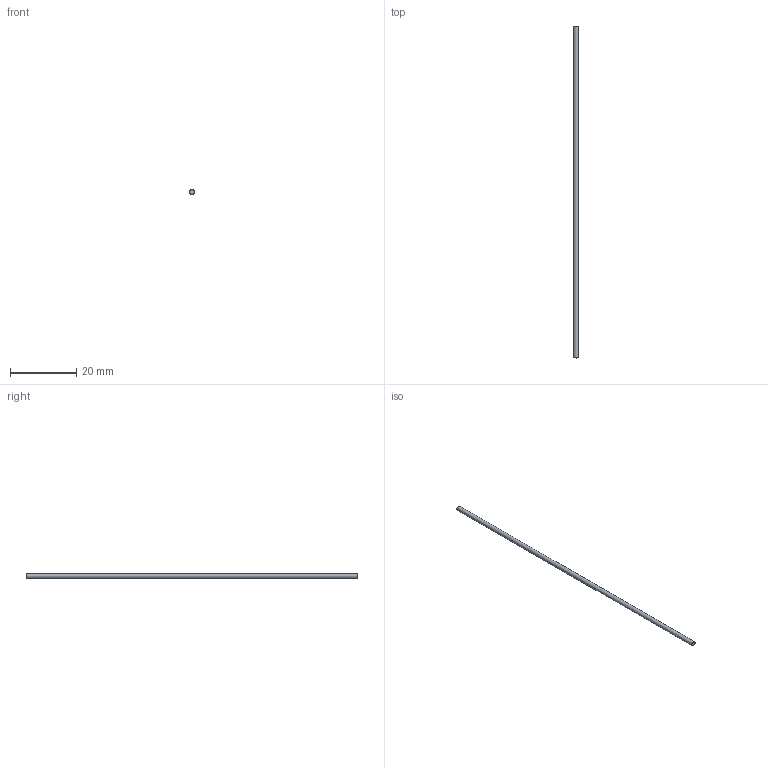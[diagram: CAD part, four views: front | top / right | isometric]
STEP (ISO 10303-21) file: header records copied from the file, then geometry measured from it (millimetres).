
FILE_DESCRIPTION(/* description */ ('STEP AP242 Edition 2','CAx-IF Rec.Pracs.---Representation and Presentation of Product Manufacturing Information (PMI)---4.0---2014-10-13','CAx-IF Rec.Pracs.---3D Tessellated Geometry---0.4---2014-09-14','2;1','CAx-IF Rec.Pracs.---User Defined Attributes---1.5---2016-08-15'),/* implementation_level */ '2;1');
FILE_NAME(/* name */ 'Final Build - pen tube (1)',/* time_stamp */ '2026-08-31T23:26:26Z',/* author */ (''),/* organization */ (''),/* preprocessor_version */ 'ST-DEVELOPER v20',/* originating_system */ 'ONSHAPE BY PTC INC, 1.220',/* authorisation */ ' ');
FILE_SCHEMA (('AP242_MANAGED_MODEL_BASED_3D_ENGINEERING_MIM_LF { 1 0 10303 442 3 1 4 }'));
Length unit declared in the file: metre
Products named in the file (1): pen tube
Bounding box: 1.42 x 100 x 1.42 mm (x, y, z)
Volume: 157.7 mm3; surface area: 448.4 mm2
Topology: 1 solids, 1 shells, 3 faces, 3 edges, 2 vertices
Faces by surface type: plane 2, cylinder 1
Full cylindrical faces by diameter (mm): 1.417 x1
Entity records: 84 total; most frequent: DIRECTION 12, CARTESIAN_POINT 8, AXIS2_PLACEMENT_3D 6, ORIENTED_EDGE 4, EDGE_LOOP 4, FACE_BOUND 4, ADVANCED_FACE 3, PLANE 2
